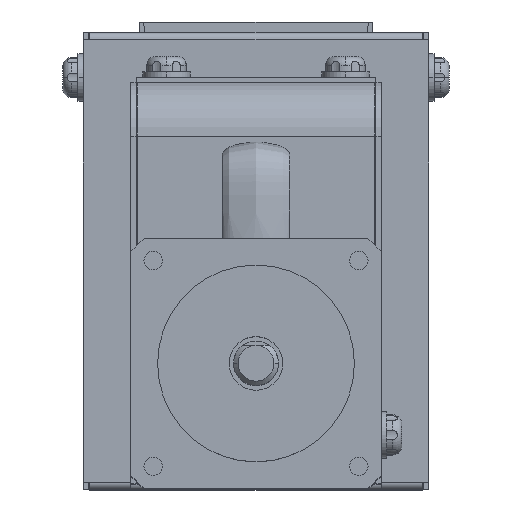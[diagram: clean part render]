
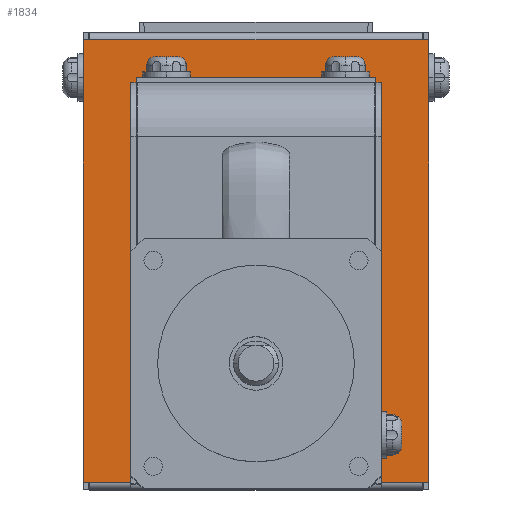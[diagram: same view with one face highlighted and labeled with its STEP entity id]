
A CAD part, top view. The second image highlights one B-rep face of the part: STEP entity #1834.
In plain terms, the highlighted planar face has unit normal (0, 0, 1).
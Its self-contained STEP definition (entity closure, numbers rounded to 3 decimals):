
#172 = CARTESIAN_POINT ( 'NONE',  ( -18.6, 36.3, -66. ) ) ;
#181 = CARTESIAN_POINT ( 'NONE',  ( -18.6, -13.2, -66. ) ) ;
#190 = CARTESIAN_POINT ( 'NONE',  ( 18.6, -13.2, -66. ) ) ;
#216 = CARTESIAN_POINT ( 'NONE',  ( -19.3, -13.2, -66. ) ) ;
#221 = CARTESIAN_POINT ( 'NONE',  ( 18.6, 36.3, -66. ) ) ;
#222 = CARTESIAN_POINT ( 'NONE',  ( -19.3, 36.3, -66. ) ) ;
#233 = CARTESIAN_POINT ( 'NONE',  ( 19.3, 36.3, -66. ) ) ;
#244 = CARTESIAN_POINT ( 'NONE',  ( 19.3, -13.2, -66. ) ) ;
#1834 = ADVANCED_FACE ( 'NONE', ( #14962 ), #17570, .F. ) ;
#2768 = EDGE_CURVE ( 'NONE', #12853, #12844, #20870, .T. ) ;
#2783 = EDGE_CURVE ( 'NONE', #19222, #12835, #20899, .T. ) ;
#2785 = EDGE_CURVE ( 'NONE', #19223, #12835, #20901, .T. ) ;
#2786 = EDGE_CURVE ( 'NONE', #19217, #19223, #20904, .T. ) ;
#2787 = EDGE_CURVE ( 'NONE', #19217, #12844, #20906, .T. ) ;
#2788 = EDGE_CURVE ( 'NONE', #19245, #12853, #20908, .T. ) ;
#2789 = EDGE_CURVE ( 'NONE', #19234, #19245, #20910, .T. ) ;
#2790 = EDGE_CURVE ( 'NONE', #19234, #19222, #20912, .T. ) ;
#3383 = ORIENTED_EDGE ( 'NONE', *, *, #2783, .T. ) ;
#3384 = ORIENTED_EDGE ( 'NONE', *, *, #2785, .F. ) ;
#3385 = ORIENTED_EDGE ( 'NONE', *, *, #2786, .F. ) ;
#3386 = ORIENTED_EDGE ( 'NONE', *, *, #2787, .T. ) ;
#3387 = ORIENTED_EDGE ( 'NONE', *, *, #2768, .F. ) ;
#3388 = ORIENTED_EDGE ( 'NONE', *, *, #2788, .F. ) ;
#3389 = ORIENTED_EDGE ( 'NONE', *, *, #2789, .F. ) ;
#3390 = ORIENTED_EDGE ( 'NONE', *, *, #2790, .T. ) ;
#6789 = EDGE_LOOP ( 'NONE', ( #3383, #3384, #3385, #3386, #3387, #3388, #3389, #3390 ) ) ;
#10628 = AXIS2_PLACEMENT_3D ( 'NONE', #17571, #17572, #17573 ) ;
#12835 = VERTEX_POINT ( 'NONE', #172 ) ;
#12844 = VERTEX_POINT ( 'NONE', #181 ) ;
#12853 = VERTEX_POINT ( 'NONE', #190 ) ;
#14962 = FACE_OUTER_BOUND ( 'NONE', #6789, .T. ) ;
#17570 = PLANE ( 'NONE',  #10628 ) ;
#17571 = CARTESIAN_POINT ( 'NONE',  ( 18.6, 36.3, -66. ) ) ;
#17572 = DIRECTION ( 'NONE',  ( 0., 0., -1. ) ) ;
#17573 = DIRECTION ( 'NONE',  ( -1., 0., 0. ) ) ;
#19217 = VERTEX_POINT ( 'NONE', #216 ) ;
#19222 = VERTEX_POINT ( 'NONE', #221 ) ;
#19223 = VERTEX_POINT ( 'NONE', #222 ) ;
#19234 = VERTEX_POINT ( 'NONE', #233 ) ;
#19245 = VERTEX_POINT ( 'NONE', #244 ) ;
#20870 = LINE ( 'NONE', #21919, #20872 ) ;
#20872 = VECTOR ( 'NONE', #21920, 1000. ) ;
#20899 = LINE ( 'NONE', #21951, #20900 ) ;
#20900 = VECTOR ( 'NONE', #21952, 1000. ) ;
#20901 = LINE ( 'NONE', #21956, #20903 ) ;
#20903 = VECTOR ( 'NONE', #21957, 1000. ) ;
#20904 = LINE ( 'NONE', #21958, #20905 ) ;
#20905 = VECTOR ( 'NONE', #21959, 1000. ) ;
#20906 = LINE ( 'NONE', #21960, #20907 ) ;
#20907 = VECTOR ( 'NONE', #21961, 1000. ) ;
#20908 = LINE ( 'NONE', #21962, #20909 ) ;
#20909 = VECTOR ( 'NONE', #21963, 1000. ) ;
#20910 = LINE ( 'NONE', #21964, #20911 ) ;
#20911 = VECTOR ( 'NONE', #21965, 1000. ) ;
#20912 = LINE ( 'NONE', #21966, #20913 ) ;
#20913 = VECTOR ( 'NONE', #21967, 1000. ) ;
#21919 = CARTESIAN_POINT ( 'NONE',  ( 18.6, -13.2, -66. ) ) ;
#21920 = DIRECTION ( 'NONE',  ( -1., 0., 0. ) ) ;
#21951 = CARTESIAN_POINT ( 'NONE',  ( 18.6, 36.3, -66. ) ) ;
#21952 = DIRECTION ( 'NONE',  ( -1., 0., 0. ) ) ;
#21956 = CARTESIAN_POINT ( 'NONE',  ( -18.7, 36.3, -66. ) ) ;
#21957 = DIRECTION ( 'NONE',  ( 1., 0., 0. ) ) ;
#21958 = CARTESIAN_POINT ( 'NONE',  ( -19.3, -13.2, -66. ) ) ;
#21959 = DIRECTION ( 'NONE',  ( 0., 1., 0. ) ) ;
#21960 = CARTESIAN_POINT ( 'NONE',  ( -18.7, -13.2, -66. ) ) ;
#21961 = DIRECTION ( 'NONE',  ( 1., 0., 0. ) ) ;
#21962 = CARTESIAN_POINT ( 'NONE',  ( 18.7, -13.2, -66. ) ) ;
#21963 = DIRECTION ( 'NONE',  ( -1., 0., 0. ) ) ;
#21964 = CARTESIAN_POINT ( 'NONE',  ( 19.3, 36.3, -66. ) ) ;
#21965 = DIRECTION ( 'NONE',  ( 0., -1., 0. ) ) ;
#21966 = CARTESIAN_POINT ( 'NONE',  ( 18.7, 36.3, -66. ) ) ;
#21967 = DIRECTION ( 'NONE',  ( -1., 0., 0. ) ) ;
